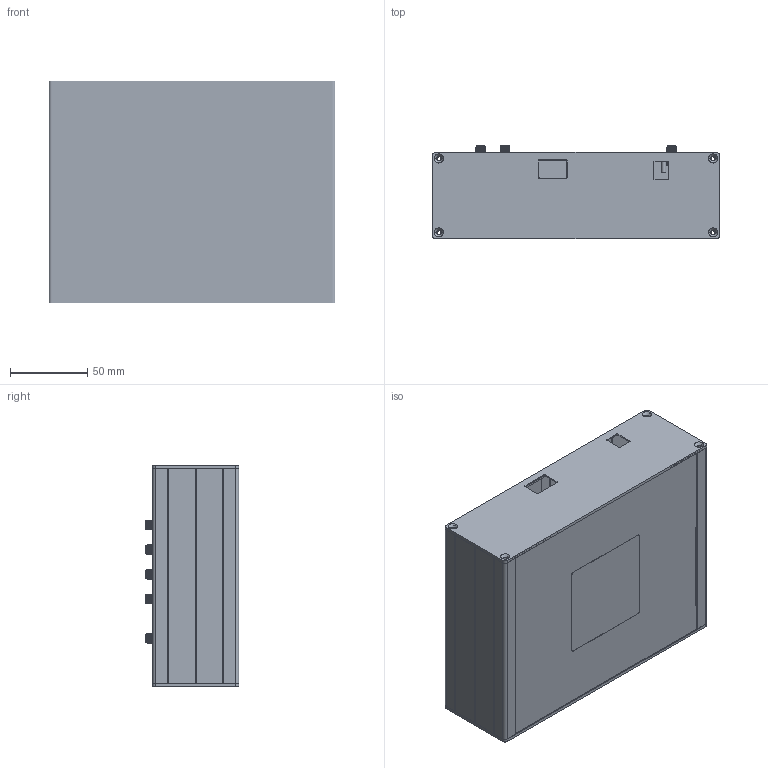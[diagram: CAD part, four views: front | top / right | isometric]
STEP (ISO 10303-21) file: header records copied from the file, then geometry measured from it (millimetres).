
FILE_DESCRIPTION (( 'STEP AP214' ), '1' );
FILE_NAME ('PS_housing_3_4.STEP', '2024-04-16T07:46:13', ( '' ), ( '' ), 'SwSTEP 2.0', 'SolidWorks 2023', '' );
FILE_SCHEMA (( 'AUTOMOTIVE_DESIGN' ));
Length unit declared in the file: millimetre
Products named in the file (7): PS_back_3_4.stp_Standard; User Library-142-0701-201; PS_bottom_3_4_Standard; PS_front_3_4.stp_Standard; PS_side_3_4.step_Standard; PS_top_3_4_Standard; PS_housing_3_4
Assembly tree (20 placements, depth 2):
  PS_housing_3_4
    PS_front_3_4.stp_Standard
    PS_side_3_4.step_Standard  x2
    PS_top_3_4_Standard
    PS_bottom_3_4_Standard
    PS_back_3_4.stp_Standard
    User Library-142-0701-201  x14
Bounding box: 186.2 x 60.77 x 144 mm (x, y, z)
Volume: 183389.9 mm3; surface area: 218928.7 mm2
Topology: 16 solids, 30 shells, 1562 faces, 4282 edges, 2764 vertices
Faces by surface type: plane 963, cylinder 391, cone 166, bspline 42
Full cylindrical faces by diameter (mm): 0.991 x14, 1.27 x14, 2.7 x10, 4.115 x28, 4.674 x14, 5.08 x14, 5.385 x14, 7 x10, 7.925 x14
Entity records: 18336 total; most frequent: CARTESIAN_POINT 5388, DIRECTION 2662, ORIENTED_EDGE 2515, EDGE_CURVE 1261, AXIS2_PLACEMENT_3D 907, VECTOR 848, LINE 848, VERTEX_POINT 845
